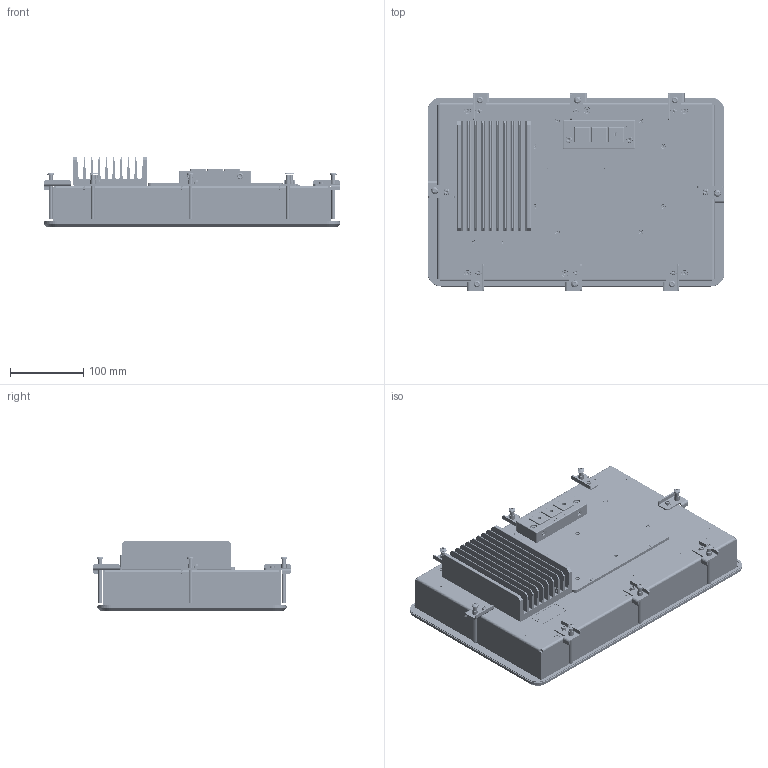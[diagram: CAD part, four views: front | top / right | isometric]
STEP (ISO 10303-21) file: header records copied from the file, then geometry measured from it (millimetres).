
FILE_DESCRIPTION(/* description */ (''),/* implementation_level */ '2;1');
FILE_NAME(/* name */ 'D:\Modelle vereinfacht\notion.D\15.6 Zoll\778-41968-00\778-41968-00_EXTERN.stp',/* time_stamp */ '2023-07-14T14:47:49+02:00',/* author */ ('Blessing'),/* organization */ (''),/* preprocessor_version */ 'ST-DEVELOPER v18.1',/* originating_system */ 'Autodesk Inventor 2021',/* authorisation */ '');
FILE_SCHEMA (('AUTOMOTIVE_DESIGN { 1 0 10303 214 3 1 1 }'));
Products named in the file (5): Baugruppe3; 778-41968-00; 49-954-880A EXTERN; 778-90147-01 EXTERN; 778-90058-02_2
Assembly tree (4 placements, depth 2):
  Baugruppe3
    778-41968-00
    49-954-880A EXTERN
    778-90147-01 EXTERN
    778-90058-02_2
Bounding box: 404.9 x 268.8 x 96.5 mm (x, y, z)
Volume: 4755330.4 mm3; surface area: 675110.2 mm2
Topology: 11 solids, 66 shells, 12587 faces, 34707 edges, 22398 vertices
Faces by surface type: plane 7792, cylinder 2986, bspline 1161, cone 518, torus 83, sphere 47
Full cylindrical faces by diameter (mm): 0.457 x1, 0.5 x11, 0.6 x3, 0.65 x8, 0.8 x1, 0.95 x8, 1.1 x2, 1.2 x3, 2.156 x2, 2.459 x16, 2.5 x2, 2.794 x2, 2.8 x6, 2.9 x2, 2.91 x4, 3 x26, 3.01 x4, 3.2 x2, 3.242 x12, 3.5 x24, 3.8 x2, 4 x23, 4.1 x2, 4.134 x10, 4.22 x10, 4.3 x18, 4.5 x16, 4.7 x2, 4.8 x2, 5 x30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
Entity records: 443541 total; most frequent: CARTESIAN_POINT 115599, ORIENTED_EDGE 69192, DIRECTION 59900, EDGE_CURVE 34669, LINE 24558, VECTOR 24558, VERTEX_POINT 22422, AXIS2_PLACEMENT_3D 17671
